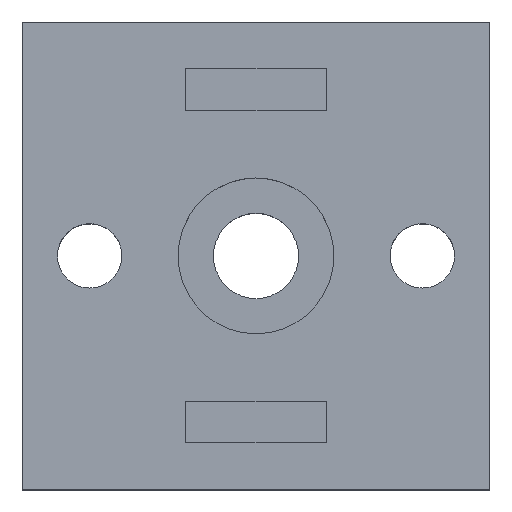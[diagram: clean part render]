
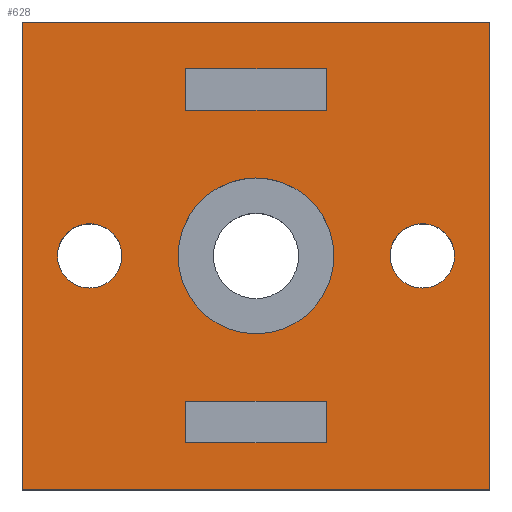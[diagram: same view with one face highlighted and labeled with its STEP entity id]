
A CAD part, top view. The second image highlights one B-rep face of the part: STEP entity #628.
In plain terms, the highlighted planar face has unit normal (0, 0, 1).
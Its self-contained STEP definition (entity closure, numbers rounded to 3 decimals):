
#19=FACE_BOUND('',#123,.T.);
#20=FACE_BOUND('',#124,.T.);
#21=FACE_BOUND('',#125,.T.);
#22=FACE_BOUND('',#126,.T.);
#23=FACE_BOUND('',#127,.T.);
#52=PLANE('',#696);
#85=FACE_OUTER_BOUND('',#122,.T.);
#122=EDGE_LOOP('',(#577,#578,#579,#580));
#123=EDGE_LOOP('',(#581));
#124=EDGE_LOOP('',(#582));
#125=EDGE_LOOP('',(#583));
#126=EDGE_LOOP('',(#584,#585,#586,#587));
#127=EDGE_LOOP('',(#588,#589,#590,#591));
#170=LINE('',#975,#242);
#174=LINE('',#982,#246);
#177=LINE('',#988,#249);
#179=LINE('',#991,#251);
#182=LINE('',#1000,#254);
#186=LINE('',#1007,#258);
#189=LINE('',#1013,#261);
#191=LINE('',#1016,#263);
#192=LINE('',#1021,#264);
#195=LINE('',#1026,#267);
#197=LINE('',#1030,#269);
#199=LINE('',#1033,#271);
#242=VECTOR('',#803,10.);
#246=VECTOR('',#809,10.);
#249=VECTOR('',#814,10.);
#251=VECTOR('',#818,10.);
#254=VECTOR('',#825,10.);
#258=VECTOR('',#831,10.);
#261=VECTOR('',#836,10.);
#263=VECTOR('',#840,10.);
#264=VECTOR('',#845,10.);
#267=VECTOR('',#850,10.);
#269=VECTOR('',#854,10.);
#271=VECTOR('',#858,10.);
#272=CIRCLE('',#653,3.1);
#276=CIRCLE('',#658,3.1);
#283=CIRCLE('',#680,7.5);
#284=VERTEX_POINT('',#863);
#290=VERTEX_POINT('',#877);
#319=VERTEX_POINT('',#963);
#322=VERTEX_POINT('',#972);
#323=VERTEX_POINT('',#974);
#325=VERTEX_POINT('',#980);
#327=VERTEX_POINT('',#986);
#330=VERTEX_POINT('',#997);
#331=VERTEX_POINT('',#999);
#333=VERTEX_POINT('',#1005);
#335=VERTEX_POINT('',#1011);
#336=VERTEX_POINT('',#1019);
#337=VERTEX_POINT('',#1020);
#338=VERTEX_POINT('',#1025);
#339=VERTEX_POINT('',#1029);
#340=EDGE_CURVE('',#284,#284,#272,.T.);
#347=EDGE_CURVE('',#290,#290,#276,.T.);
#389=EDGE_CURVE('',#319,#319,#283,.T.);
#394=EDGE_CURVE('',#323,#322,#170,.T.);
#398=EDGE_CURVE('',#322,#325,#174,.T.);
#401=EDGE_CURVE('',#325,#327,#177,.T.);
#403=EDGE_CURVE('',#327,#323,#179,.T.);
#406=EDGE_CURVE('',#331,#330,#182,.T.);
#410=EDGE_CURVE('',#330,#333,#186,.T.);
#413=EDGE_CURVE('',#333,#335,#189,.T.);
#415=EDGE_CURVE('',#335,#331,#191,.T.);
#416=EDGE_CURVE('',#336,#337,#192,.T.);
#419=EDGE_CURVE('',#338,#336,#195,.T.);
#421=EDGE_CURVE('',#339,#338,#197,.T.);
#423=EDGE_CURVE('',#337,#339,#199,.T.);
#577=ORIENTED_EDGE('',*,*,#421,.F.);
#578=ORIENTED_EDGE('',*,*,#423,.F.);
#579=ORIENTED_EDGE('',*,*,#416,.F.);
#580=ORIENTED_EDGE('',*,*,#419,.F.);
#581=ORIENTED_EDGE('',*,*,#340,.T.);
#582=ORIENTED_EDGE('',*,*,#347,.T.);
#583=ORIENTED_EDGE('',*,*,#389,.T.);
#584=ORIENTED_EDGE('',*,*,#394,.T.);
#585=ORIENTED_EDGE('',*,*,#398,.T.);
#586=ORIENTED_EDGE('',*,*,#401,.T.);
#587=ORIENTED_EDGE('',*,*,#403,.T.);
#588=ORIENTED_EDGE('',*,*,#406,.T.);
#589=ORIENTED_EDGE('',*,*,#410,.T.);
#590=ORIENTED_EDGE('',*,*,#413,.T.);
#591=ORIENTED_EDGE('',*,*,#415,.T.);
#628=ADVANCED_FACE('',(#85,#19,#20,#21,#22,#23),#52,.T.);
#653=AXIS2_PLACEMENT_3D('',#864,#701,#702);
#658=AXIS2_PLACEMENT_3D('',#878,#714,#715);
#680=AXIS2_PLACEMENT_3D('',#964,#793,#794);
#696=AXIS2_PLACEMENT_3D('',#1034,#859,#860);
#701=DIRECTION('center_axis',(0.,0.,-1.));
#702=DIRECTION('ref_axis',(-1.,0.,0.));
#714=DIRECTION('center_axis',(0.,0.,-1.));
#715=DIRECTION('ref_axis',(-1.,0.,0.));
#793=DIRECTION('center_axis',(0.,0.,-1.));
#794=DIRECTION('ref_axis',(1.,0.,0.));
#803=DIRECTION('',(0.,1.,0.));
#809=DIRECTION('',(1.,0.,0.));
#814=DIRECTION('',(0.,-1.,0.));
#818=DIRECTION('',(-1.,0.,0.));
#825=DIRECTION('',(0.,1.,0.));
#831=DIRECTION('',(1.,0.,0.));
#836=DIRECTION('',(0.,-1.,0.));
#840=DIRECTION('',(-1.,0.,0.));
#845=DIRECTION('',(-1.,0.,0.));
#850=DIRECTION('',(0.,-1.,0.));
#854=DIRECTION('',(1.,0.,0.));
#858=DIRECTION('',(0.,1.,0.));
#859=DIRECTION('center_axis',(0.,0.,1.));
#860=DIRECTION('ref_axis',(1.,0.,0.));
#863=CARTESIAN_POINT('',(19.1,0.,15.));
#864=CARTESIAN_POINT('Origin',(16.,0.,15.));
#877=CARTESIAN_POINT('',(-12.9,0.,15.));
#878=CARTESIAN_POINT('Origin',(-16.,0.,15.));
#963=CARTESIAN_POINT('',(-7.5,0.,15.));
#964=CARTESIAN_POINT('Origin',(0.,0.,15.));
#972=CARTESIAN_POINT('',(-6.75,18.,15.));
#974=CARTESIAN_POINT('',(-6.75,14.,15.));
#975=CARTESIAN_POINT('',(-6.75,10.295,15.));
#980=CARTESIAN_POINT('',(6.75,18.,15.));
#982=CARTESIAN_POINT('',(-6.67,18.,15.));
#986=CARTESIAN_POINT('',(6.75,14.,15.));
#988=CARTESIAN_POINT('',(6.75,12.295,15.));
#991=CARTESIAN_POINT('',(0.08,14.,15.));
#997=CARTESIAN_POINT('',(-6.75,-14.,15.));
#999=CARTESIAN_POINT('',(-6.75,-18.,15.));
#1000=CARTESIAN_POINT('',(-6.75,-5.705,15.));
#1005=CARTESIAN_POINT('',(6.75,-14.,15.));
#1007=CARTESIAN_POINT('',(-6.67,-14.,15.));
#1011=CARTESIAN_POINT('',(6.75,-18.,15.));
#1013=CARTESIAN_POINT('',(6.75,-3.705,15.));
#1016=CARTESIAN_POINT('',(0.08,-18.,15.));
#1019=CARTESIAN_POINT('',(22.5,-22.5,15.));
#1020=CARTESIAN_POINT('',(-22.5,-22.5,15.));
#1021=CARTESIAN_POINT('',(-22.5,-22.5,15.));
#1025=CARTESIAN_POINT('',(22.5,22.5,15.));
#1026=CARTESIAN_POINT('',(22.5,-22.5,15.));
#1029=CARTESIAN_POINT('',(-22.5,22.5,15.));
#1030=CARTESIAN_POINT('',(22.5,22.5,15.));
#1033=CARTESIAN_POINT('',(-22.5,22.5,15.));
#1034=CARTESIAN_POINT('Origin',(-6.59,6.59,15.));
